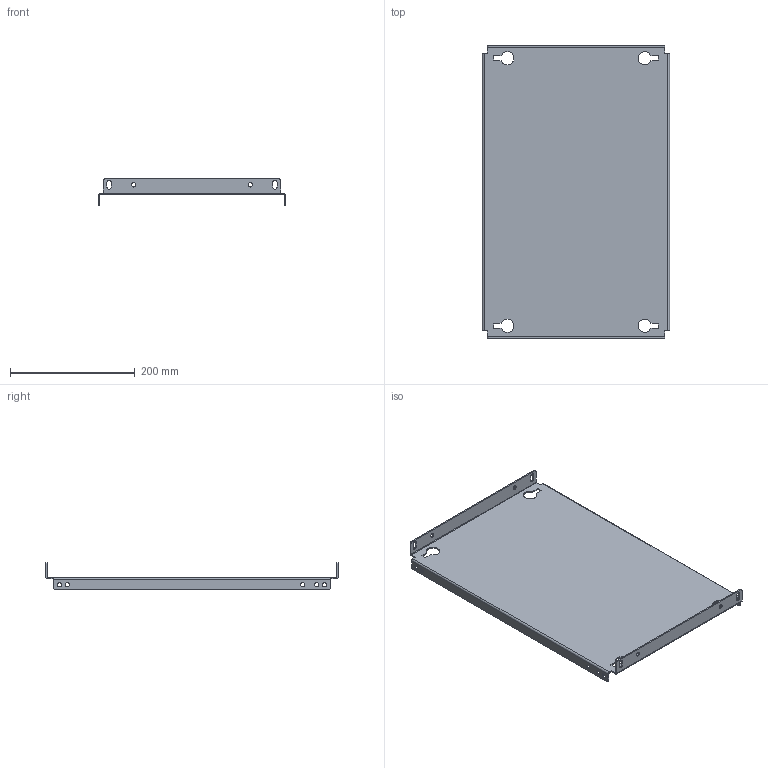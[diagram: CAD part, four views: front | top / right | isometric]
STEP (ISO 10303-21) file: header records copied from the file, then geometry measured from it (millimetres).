
FILE_DESCRIPTION (( 'STEP AP203' ), '1' );
FILE_NAME ('R5PPS5004.STEP', '2021-12-20T06:46:22', ( '' ), ( '' ), 'SwSTEP 2.0', 'SolidWorks 2020', '' );
FILE_SCHEMA (( 'CONFIG_CONTROL_DESIGN' ));
Length unit declared in the file: millimetre
Products named in the file (1): R5PPS5004
Bounding box: 300 x 469 x 43 mm (x, y, z)
Volume: 330784.5 mm3; surface area: 335775.4 mm2
Topology: 1 solids, 1 shells, 136 faces, 370 edges, 236 vertices
Faces by surface type: cylinder 78, plane 58
Entity records: 4479 total; most frequent: DIRECTION 800, CARTESIAN_POINT 743, ORIENTED_EDGE 740, EDGE_CURVE 370, AXIS2_PLACEMENT_3D 293, VERTEX_POINT 236, VECTOR 214, LINE 214
